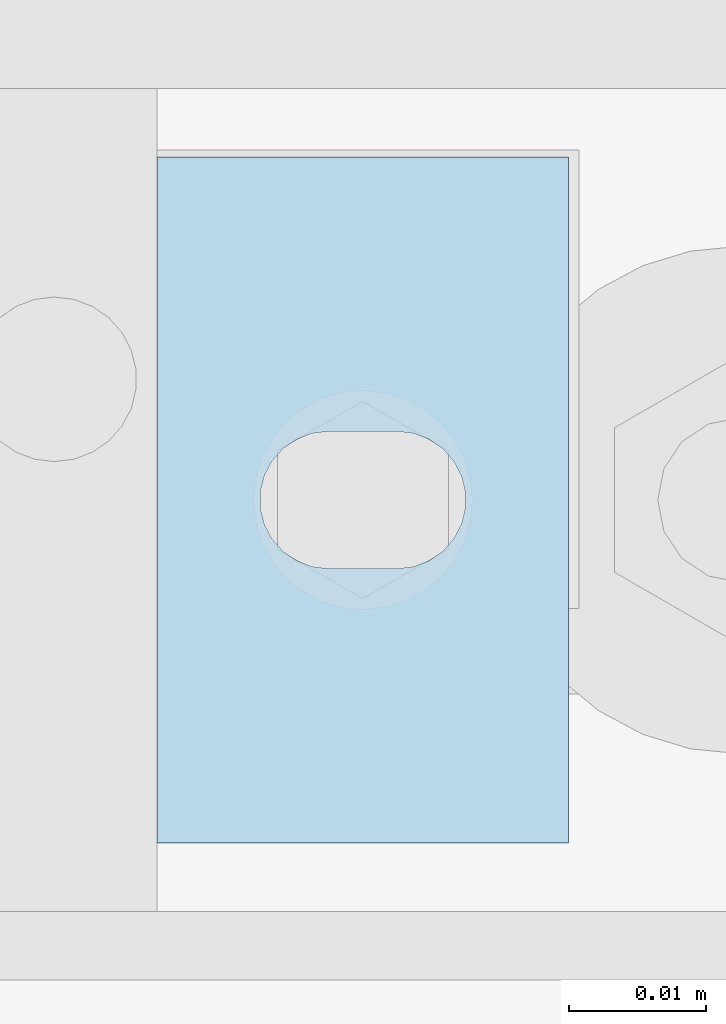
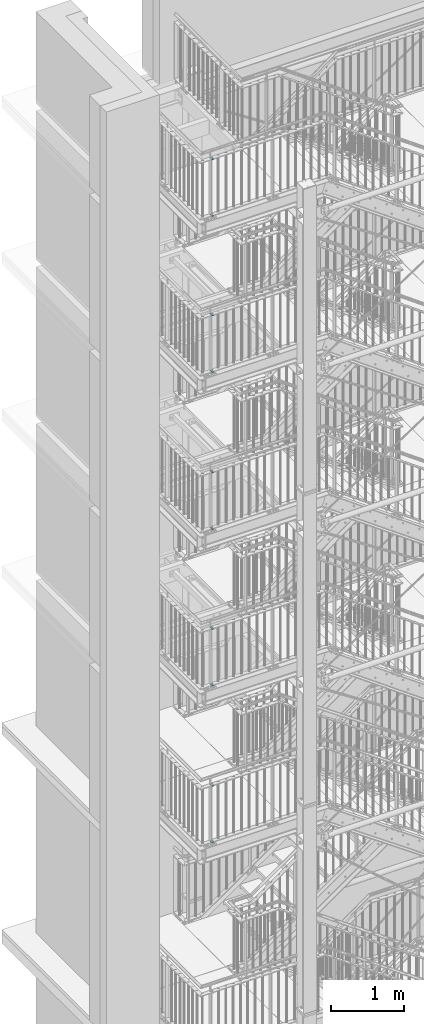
# One storey, part 217 of 825: 10 plates, 10 openings.
"""IFC2X3 building model written with IfcOpenShell, lengths in millimetres."""

from ifc_helpers import new_model, entity, si_unit, converted_unit, point, frame, frame_2d, origin, origin_with_axes, place, context, project, spatial, polyline, circle_curve, line_curve, trimmed, segment, composite_curve, outline, extrude, material, layer, layer_set, element, save


model = new_model("IFC2X3")

# Units and contexts
model_context = context("Model", 3, precision=1e-09, world=origin_with_axes())
ifc_project = project(units=[si_unit("LENGTHUNIT", "METRE", prefix="MILLI"), si_unit("AREAUNIT", "SQUARE_METRE"), si_unit("VOLUMEUNIT", "CUBIC_METRE"), converted_unit("PLANEANGLEUNIT", "DEGREE", entity("IfcPlaneAngleMeasure", 0.01745329), si_unit("PLANEANGLEUNIT", "RADIAN"), dimensions=[0, 0, 0, 0, 0, 0, 0])], contexts=[model_context])

# Site, building, storey
site_placement = place(None, origin_with_axes())
site = spatial("IfcSite", under=ifc_project, at=site_placement, Name="Cnopf'sche Kinderklinik", CompositionType="ELEMENT")
building_placement = place(site_placement, origin_with_axes())
building = spatial("IfcBuilding", under=site, at=building_placement, Name="Struktur 1", CompositionType="ELEMENT")
storey_placement = place(building_placement, origin_with_axes())
storey = spatial("IfcBuildingStorey", under=building, at=storey_placement, Name="Default Storey", CompositionType="ELEMENT", Elevation=0.0)

# Plate, opening
ifc_material = material(Name="S235JR")
ifc_layer = layer(ifc_material, 6.0)
ifc_layer_set = layer_set([ifc_layer], Name="S235JR")
plate_1_placement = place(None, frame((3447.29154585, 4526.736971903, 17888.0), z_axis=(0.0, 0.0, 1.0), x_axis=(1.0, 0.0, 0.0)))
plate_1 = element("IfcPlate", 1, at=plate_1_placement, inside=storey, material=ifc_layer_set, Name="-", ObjectType="-", context=model_context, shape_type="SweptSolid", body=[
    extrude(outline(polyline([(-15.0, -25.0), (15.0, -25.0), (15.0, 25.0), (-15.0, 25.0), (-15.0, -25.0)])), origin_with_axes(), (0.0, 0.0, 1.0), 6.0),
])
opening_1_placement = place(plate_1_placement, frame((-1e-09, 0.0, -0.5), z_axis=(0.0, 0.0, 1.0), x_axis=(1.0, 0.0, 0.0)))
element("IfcOpeningElement", 2, at=opening_1_placement, cuts=plate_1, ObjectType="Opening", context=model_context, shape_type="SweptSolid", body=[
    extrude(outline(composite_curve([segment(trimmed(line_curve((-2.5, -5.001), (1.0, 0.0), 5.0), [point((-2.5, -5.001))], [point((2.5, -5.001))], True, "CARTESIAN"), True, "CONTINUOUS"), segment(trimmed(circle_curve(frame_2d((2.5, 0.0), x_axis=(1.0, 0.0)), 5.001), [point((2.5, -5.001))], [point((2.5, 5.001))], True, "CARTESIAN"), True, "CONTINUOUS"), segment(trimmed(line_curve((2.5, 5.001), (-1.0, 0.0), 5.0), [point((2.5, 5.001))], [point((-2.5, 5.001))], True, "CARTESIAN"), True, "CONTINUOUS"), segment(trimmed(circle_curve(frame_2d((-2.5, 0.0), x_axis=(1.0, 0.0)), 5.001), [point((-2.5, 5.001))], [point((-2.5, -5.001))], True, "CARTESIAN"), True, "CONTINUOUS")], self_intersect=False)), origin(), (0.0, 0.0, 1.0), 7.0),
])

plate_2_placement = place(None, frame((3447.29154585, 4526.736971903, 18836.8), z_axis=(0.0, 0.0, 1.0), x_axis=(1.0, 0.0, 0.0)))
plate_2 = element("IfcPlate", 3, at=plate_2_placement, inside=storey, material=ifc_layer_set, Name="-", ObjectType="-", context=model_context, shape_type="SweptSolid", body=[
    extrude(outline(polyline([(-15.0, -25.0), (15.0, -25.0), (15.0, 25.0), (-15.0, 25.0), (-15.0, -25.0)])), origin_with_axes(), (0.0, 0.0, 1.0), 6.0),
])
opening_2_placement = place(plate_2_placement, frame((-1e-09, 0.0, -0.5), z_axis=(0.0, 0.0, 1.0), x_axis=(1.0, 0.0, 0.0)))
element("IfcOpeningElement", 4, at=opening_2_placement, cuts=plate_2, ObjectType="Opening", context=model_context, shape_type="SweptSolid", body=[
    extrude(outline(composite_curve([segment(trimmed(line_curve((-2.5, -5.001), (1.0, 0.0), 5.0), [point((-2.5, -5.001))], [point((2.5, -5.001))], True, "CARTESIAN"), True, "CONTINUOUS"), segment(trimmed(circle_curve(frame_2d((2.5, 0.0), x_axis=(1.0, 0.0)), 5.001), [point((2.5, -5.001))], [point((2.5, 5.001))], True, "CARTESIAN"), True, "CONTINUOUS"), segment(trimmed(line_curve((2.5, 5.001), (-1.0, 0.0), 5.0), [point((2.5, 5.001))], [point((-2.5, 5.001))], True, "CARTESIAN"), True, "CONTINUOUS"), segment(trimmed(circle_curve(frame_2d((-2.5, 0.0), x_axis=(1.0, 0.0)), 5.001), [point((-2.5, 5.001))], [point((-2.5, -5.001))], True, "CARTESIAN"), True, "CONTINUOUS")], self_intersect=False)), origin(), (0.0, 0.0, 1.0), 7.0),
])

plate_3_placement = place(None, frame((3447.29154585, 4526.736971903, 16216.8), z_axis=(0.0, 0.0, 1.0), x_axis=(1.0, 0.0, 0.0)))
plate_3 = element("IfcPlate", 5, at=plate_3_placement, inside=storey, material=ifc_layer_set, Name="-", ObjectType="-", context=model_context, shape_type="SweptSolid", body=[
    extrude(outline(polyline([(-15.0, -25.0), (15.0, -25.0), (15.0, 25.0), (-15.0, 25.0), (-15.0, -25.0)])), origin_with_axes(), (0.0, 0.0, 1.0), 6.0),
])
opening_3_placement = place(plate_3_placement, frame((-1e-09, 0.0, -0.5), z_axis=(0.0, 0.0, 1.0), x_axis=(1.0, 0.0, 0.0)))
element("IfcOpeningElement", 6, at=opening_3_placement, cuts=plate_3, ObjectType="Opening", context=model_context, shape_type="SweptSolid", body=[
    extrude(outline(composite_curve([segment(trimmed(line_curve((-2.5, -5.001), (1.0, 0.0), 5.0), [point((-2.5, -5.001))], [point((2.5, -5.001))], True, "CARTESIAN"), True, "CONTINUOUS"), segment(trimmed(circle_curve(frame_2d((2.5, 0.0), x_axis=(1.0, 0.0)), 5.001), [point((2.5, -5.001))], [point((2.5, 5.001))], True, "CARTESIAN"), True, "CONTINUOUS"), segment(trimmed(line_curve((2.5, 5.001), (-1.0, 0.0), 5.0), [point((2.5, 5.001))], [point((-2.5, 5.001))], True, "CARTESIAN"), True, "CONTINUOUS"), segment(trimmed(circle_curve(frame_2d((-2.5, 0.0), x_axis=(1.0, 0.0)), 5.001), [point((-2.5, 5.001))], [point((-2.5, -5.001))], True, "CARTESIAN"), True, "CONTINUOUS")], self_intersect=False)), origin(), (0.0, 0.0, 1.0), 7.0),
])

plate_4_placement = place(None, frame((3447.29154585, 4526.736971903, 15268.0), z_axis=(0.0, 0.0, 1.0), x_axis=(1.0, 0.0, 0.0)))
plate_4 = element("IfcPlate", 7, at=plate_4_placement, inside=storey, material=ifc_layer_set, Name="-", ObjectType="-", context=model_context, shape_type="SweptSolid", body=[
    extrude(outline(polyline([(-15.0, -25.0), (15.0, -25.0), (15.0, 25.0), (-15.0, 25.0), (-15.0, -25.0)])), origin_with_axes(), (0.0, 0.0, 1.0), 6.0),
])
opening_4_placement = place(plate_4_placement, frame((-1e-09, 0.0, -0.5), z_axis=(0.0, 0.0, 1.0), x_axis=(1.0, 0.0, 0.0)))
element("IfcOpeningElement", 8, at=opening_4_placement, cuts=plate_4, ObjectType="Opening", context=model_context, shape_type="SweptSolid", body=[
    extrude(outline(composite_curve([segment(trimmed(line_curve((-2.5, -5.001), (1.0, 0.0), 5.0), [point((-2.5, -5.001))], [point((2.5, -5.001))], True, "CARTESIAN"), True, "CONTINUOUS"), segment(trimmed(circle_curve(frame_2d((2.5, 0.0), x_axis=(1.0, 0.0)), 5.001), [point((2.5, -5.001))], [point((2.5, 5.001))], True, "CARTESIAN"), True, "CONTINUOUS"), segment(trimmed(line_curve((2.5, 5.001), (-1.0, 0.0), 5.0), [point((2.5, 5.001))], [point((-2.5, 5.001))], True, "CARTESIAN"), True, "CONTINUOUS"), segment(trimmed(circle_curve(frame_2d((-2.5, 0.0), x_axis=(1.0, 0.0)), 5.001), [point((-2.5, 5.001))], [point((-2.5, -5.001))], True, "CARTESIAN"), True, "CONTINUOUS")], self_intersect=False)), origin(), (0.0, 0.0, 1.0), 7.0),
])

plate_5_placement = place(None, frame((3447.29154585, 4526.736971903, 13581.8), z_axis=(0.0, 0.0, 1.0), x_axis=(1.0, 0.0, 0.0)))
plate_5 = element("IfcPlate", 9, at=plate_5_placement, inside=storey, material=ifc_layer_set, Name="-", ObjectType="-", context=model_context, shape_type="SweptSolid", body=[
    extrude(outline(polyline([(-15.0, -25.0), (15.0, -25.0), (15.0, 25.0), (-15.0, 25.0), (-15.0, -25.0)])), origin_with_axes(), (0.0, 0.0, 1.0), 6.0),
])
opening_5_placement = place(plate_5_placement, frame((-1e-09, 0.0, -0.5), z_axis=(0.0, 0.0, 1.0), x_axis=(1.0, 0.0, 0.0)))
element("IfcOpeningElement", 10, at=opening_5_placement, cuts=plate_5, ObjectType="Opening", context=model_context, shape_type="SweptSolid", body=[
    extrude(outline(composite_curve([segment(trimmed(line_curve((-2.5, -5.001), (1.0, 0.0), 5.0), [point((-2.5, -5.001))], [point((2.5, -5.001))], True, "CARTESIAN"), True, "CONTINUOUS"), segment(trimmed(circle_curve(frame_2d((2.5, 0.0), x_axis=(1.0, 0.0)), 5.001), [point((2.5, -5.001))], [point((2.5, 5.001))], True, "CARTESIAN"), True, "CONTINUOUS"), segment(trimmed(line_curve((2.5, 5.001), (-1.0, 0.0), 5.0), [point((2.5, 5.001))], [point((-2.5, 5.001))], True, "CARTESIAN"), True, "CONTINUOUS"), segment(trimmed(circle_curve(frame_2d((-2.5, 0.0), x_axis=(1.0, 0.0)), 5.001), [point((-2.5, 5.001))], [point((-2.5, -5.001))], True, "CARTESIAN"), True, "CONTINUOUS")], self_intersect=False)), origin(), (0.0, 0.0, 1.0), 7.0),
])

plate_6_placement = place(None, frame((3447.29154585, 4526.736971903, 12633.0), z_axis=(0.0, 0.0, 1.0), x_axis=(1.0, 0.0, 0.0)))
plate_6 = element("IfcPlate", 11, at=plate_6_placement, inside=storey, material=ifc_layer_set, Name="-", ObjectType="-", context=model_context, shape_type="SweptSolid", body=[
    extrude(outline(polyline([(-15.0, -25.0), (15.0, -25.0), (15.0, 25.0), (-15.0, 25.0), (-15.0, -25.0)])), origin_with_axes(), (0.0, 0.0, 1.0), 6.0),
])
opening_6_placement = place(plate_6_placement, frame((-1e-09, 0.0, -0.5), z_axis=(0.0, 0.0, 1.0), x_axis=(1.0, 0.0, 0.0)))
element("IfcOpeningElement", 12, at=opening_6_placement, cuts=plate_6, ObjectType="Opening", context=model_context, shape_type="SweptSolid", body=[
    extrude(outline(composite_curve([segment(trimmed(line_curve((-2.5, -5.001), (1.0, 0.0), 5.0), [point((-2.5, -5.001))], [point((2.5, -5.001))], True, "CARTESIAN"), True, "CONTINUOUS"), segment(trimmed(circle_curve(frame_2d((2.5, 0.0), x_axis=(1.0, 0.0)), 5.001), [point((2.5, -5.001))], [point((2.5, 5.001))], True, "CARTESIAN"), True, "CONTINUOUS"), segment(trimmed(line_curve((2.5, 5.001), (-1.0, 0.0), 5.0), [point((2.5, 5.001))], [point((-2.5, 5.001))], True, "CARTESIAN"), True, "CONTINUOUS"), segment(trimmed(circle_curve(frame_2d((-2.5, 0.0), x_axis=(1.0, 0.0)), 5.001), [point((-2.5, 5.001))], [point((-2.5, -5.001))], True, "CARTESIAN"), True, "CONTINUOUS")], self_intersect=False)), origin(), (0.0, 0.0, 1.0), 7.0),
])

plate_7_placement = place(None, frame((3447.29154585, 4526.736971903, 10954.8), z_axis=(0.0, 0.0, 1.0), x_axis=(1.0, 0.0, 0.0)))
plate_7 = element("IfcPlate", 13, at=plate_7_placement, inside=storey, material=ifc_layer_set, Name="-", ObjectType="-", context=model_context, shape_type="SweptSolid", body=[
    extrude(outline(polyline([(-15.0, -25.0), (15.0, -25.0), (15.0, 25.0), (-15.0, 25.0), (-15.0, -25.0)])), origin_with_axes(), (0.0, 0.0, 1.0), 6.0),
])
opening_7_placement = place(plate_7_placement, frame((-1e-09, 0.0, -0.5), z_axis=(0.0, 0.0, 1.0), x_axis=(1.0, 0.0, 0.0)))
element("IfcOpeningElement", 14, at=opening_7_placement, cuts=plate_7, ObjectType="Opening", context=model_context, shape_type="SweptSolid", body=[
    extrude(outline(composite_curve([segment(trimmed(line_curve((-2.5, -5.001), (1.0, 0.0), 5.0), [point((-2.5, -5.001))], [point((2.5, -5.001))], True, "CARTESIAN"), True, "CONTINUOUS"), segment(trimmed(circle_curve(frame_2d((2.5, 0.0), x_axis=(1.0, 0.0)), 5.001), [point((2.5, -5.001))], [point((2.5, 5.001))], True, "CARTESIAN"), True, "CONTINUOUS"), segment(trimmed(line_curve((2.5, 5.001), (-1.0, 0.0), 5.0), [point((2.5, 5.001))], [point((-2.5, 5.001))], True, "CARTESIAN"), True, "CONTINUOUS"), segment(trimmed(circle_curve(frame_2d((-2.5, 0.0), x_axis=(1.0, 0.0)), 5.001), [point((-2.5, 5.001))], [point((-2.5, -5.001))], True, "CARTESIAN"), True, "CONTINUOUS")], self_intersect=False)), origin(), (0.0, 0.0, 1.0), 7.0),
])

plate_8_placement = place(None, frame((3447.29154585, 4526.736971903, 10006.0), z_axis=(0.0, 0.0, 1.0), x_axis=(1.0, 0.0, 0.0)))
plate_8 = element("IfcPlate", 15, at=plate_8_placement, inside=storey, material=ifc_layer_set, Name="-", ObjectType="-", context=model_context, shape_type="SweptSolid", body=[
    extrude(outline(polyline([(-15.0, -25.0), (15.0, -25.0), (15.0, 25.0), (-15.0, 25.0), (-15.0, -25.0)])), origin_with_axes(), (0.0, 0.0, 1.0), 6.0),
])
opening_8_placement = place(plate_8_placement, frame((-1e-09, 0.0, -0.5), z_axis=(0.0, 0.0, 1.0), x_axis=(1.0, 0.0, 0.0)))
element("IfcOpeningElement", 16, at=opening_8_placement, cuts=plate_8, ObjectType="Opening", context=model_context, shape_type="SweptSolid", body=[
    extrude(outline(composite_curve([segment(trimmed(line_curve((-2.5, -5.001), (1.0, 0.0), 5.0), [point((-2.5, -5.001))], [point((2.5, -5.001))], True, "CARTESIAN"), True, "CONTINUOUS"), segment(trimmed(circle_curve(frame_2d((2.5, 0.0), x_axis=(1.0, 0.0)), 5.001), [point((2.5, -5.001))], [point((2.5, 5.001))], True, "CARTESIAN"), True, "CONTINUOUS"), segment(trimmed(line_curve((2.5, 5.001), (-1.0, 0.0), 5.0), [point((2.5, 5.001))], [point((-2.5, 5.001))], True, "CARTESIAN"), True, "CONTINUOUS"), segment(trimmed(circle_curve(frame_2d((-2.5, 0.0), x_axis=(1.0, 0.0)), 5.001), [point((-2.5, 5.001))], [point((-2.5, -5.001))], True, "CARTESIAN"), True, "CONTINUOUS")], self_intersect=False)), origin(), (0.0, 0.0, 1.0), 7.0),
])

plate_9_placement = place(None, frame((3447.29154585, 4526.736971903, 8322.8), z_axis=(0.0, 0.0, 1.0), x_axis=(1.0, 0.0, 0.0)))
plate_9 = element("IfcPlate", 17, at=plate_9_placement, inside=storey, material=ifc_layer_set, Name="-", ObjectType="-", context=model_context, shape_type="SweptSolid", body=[
    extrude(outline(polyline([(-15.0, -25.0), (15.0, -25.0), (15.0, 25.0), (-15.0, 25.0), (-15.0, -25.0)])), origin_with_axes(), (0.0, 0.0, 1.0), 6.0),
])
opening_9_placement = place(plate_9_placement, frame((-1e-09, 0.0, -0.5), z_axis=(0.0, 0.0, 1.0), x_axis=(1.0, 0.0, 0.0)))
element("IfcOpeningElement", 18, at=opening_9_placement, cuts=plate_9, ObjectType="Opening", context=model_context, shape_type="SweptSolid", body=[
    extrude(outline(composite_curve([segment(trimmed(line_curve((-2.5, -5.001), (1.0, 0.0), 5.0), [point((-2.5, -5.001))], [point((2.5, -5.001))], True, "CARTESIAN"), True, "CONTINUOUS"), segment(trimmed(circle_curve(frame_2d((2.5, 0.0), x_axis=(1.0, 0.0)), 5.001), [point((2.5, -5.001))], [point((2.5, 5.001))], True, "CARTESIAN"), True, "CONTINUOUS"), segment(trimmed(line_curve((2.5, 5.001), (-1.0, 0.0), 5.0), [point((2.5, 5.001))], [point((-2.5, 5.001))], True, "CARTESIAN"), True, "CONTINUOUS"), segment(trimmed(circle_curve(frame_2d((-2.5, 0.0), x_axis=(1.0, 0.0)), 5.001), [point((-2.5, 5.001))], [point((-2.5, -5.001))], True, "CARTESIAN"), True, "CONTINUOUS")], self_intersect=False)), origin(), (0.0, 0.0, 1.0), 7.0),
])

plate_10_placement = place(None, frame((3447.29154585, 4526.736971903, 7374.0), z_axis=(0.0, 0.0, 1.0), x_axis=(1.0, 0.0, 0.0)))
plate_10 = element("IfcPlate", 19, at=plate_10_placement, inside=storey, material=ifc_layer_set, Name="-", ObjectType="-", context=model_context, shape_type="SweptSolid", body=[
    extrude(outline(polyline([(-15.0, -25.0), (15.0, -25.0), (15.0, 25.0), (-15.0, 25.0), (-15.0, -25.0)])), origin_with_axes(), (0.0, 0.0, 1.0), 6.0),
])
opening_10_placement = place(plate_10_placement, frame((-1e-09, 0.0, -0.5), z_axis=(0.0, 0.0, 1.0), x_axis=(1.0, 0.0, 0.0)))
element("IfcOpeningElement", 20, at=opening_10_placement, cuts=plate_10, ObjectType="Opening", context=model_context, shape_type="SweptSolid", body=[
    extrude(outline(composite_curve([segment(trimmed(line_curve((-2.5, -5.001), (1.0, 0.0), 5.0), [point((-2.5, -5.001))], [point((2.5, -5.001))], True, "CARTESIAN"), True, "CONTINUOUS"), segment(trimmed(circle_curve(frame_2d((2.5, 0.0), x_axis=(1.0, 0.0)), 5.001), [point((2.5, -5.001))], [point((2.5, 5.001))], True, "CARTESIAN"), True, "CONTINUOUS"), segment(trimmed(line_curve((2.5, 5.001), (-1.0, 0.0), 5.0), [point((2.5, 5.001))], [point((-2.5, 5.001))], True, "CARTESIAN"), True, "CONTINUOUS"), segment(trimmed(circle_curve(frame_2d((-2.5, 0.0), x_axis=(1.0, 0.0)), 5.001), [point((-2.5, 5.001))], [point((-2.5, -5.001))], True, "CARTESIAN"), True, "CONTINUOUS")], self_intersect=False)), origin(), (0.0, 0.0, 1.0), 7.0),
])

save(model, "model.ifc")
